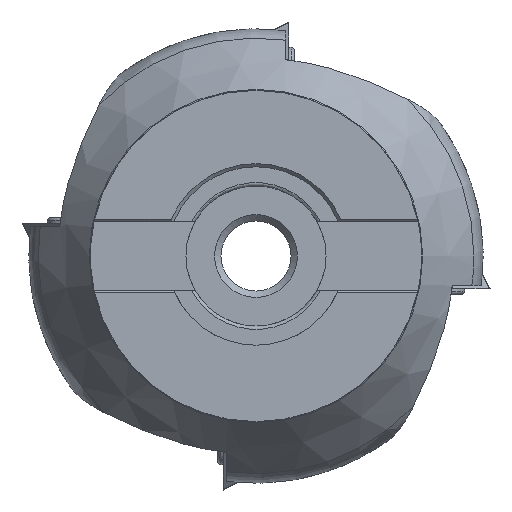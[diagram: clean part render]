
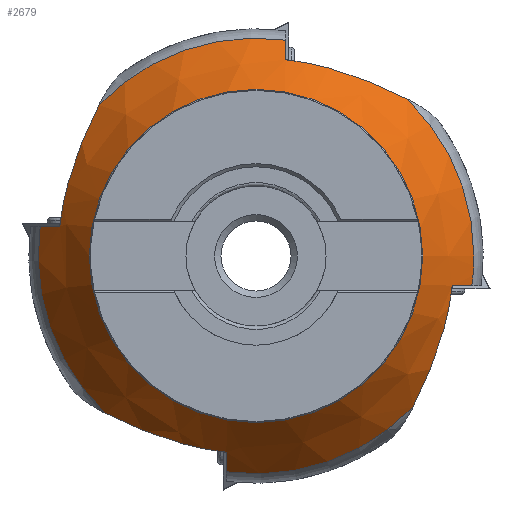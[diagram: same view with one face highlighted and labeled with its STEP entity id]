
A CAD part, left-side view. The second image highlights one B-rep face of the part: STEP entity #2679.
In plain terms, the highlighted conical face has half-angle 35 degrees and reference radius 30.909 mm.
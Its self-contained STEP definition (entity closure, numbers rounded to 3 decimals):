
#121=CONICAL_SURFACE('',#2978,30.909,0.611);
#196=(
BOUNDED_CURVE()
B_SPLINE_CURVE(2,(#4359,#4360,#4361),.UNSPECIFIED.,.F.,.F.)
B_SPLINE_CURVE_WITH_KNOTS((3,3),(0.017,0.548),
 .UNSPECIFIED.)
CURVE()
GEOMETRIC_REPRESENTATION_ITEM()
RATIONAL_B_SPLINE_CURVE((1.,1.001,1.))
REPRESENTATION_ITEM('')
);
#197=(
BOUNDED_CURVE()
B_SPLINE_CURVE(2,(#4647,#4648,#4649),.UNSPECIFIED.,.F.,.F.)
B_SPLINE_CURVE_WITH_KNOTS((3,3),(0.017,0.548),
 .UNSPECIFIED.)
CURVE()
GEOMETRIC_REPRESENTATION_ITEM()
RATIONAL_B_SPLINE_CURVE((1.,1.001,1.))
REPRESENTATION_ITEM('')
);
#198=(
BOUNDED_CURVE()
B_SPLINE_CURVE(2,(#4765,#4766,#4767),.UNSPECIFIED.,.F.,.F.)
B_SPLINE_CURVE_WITH_KNOTS((3,3),(0.017,0.548),
 .UNSPECIFIED.)
CURVE()
GEOMETRIC_REPRESENTATION_ITEM()
RATIONAL_B_SPLINE_CURVE((1.,1.001,1.))
REPRESENTATION_ITEM('')
);
#201=(
BOUNDED_CURVE()
B_SPLINE_CURVE(2,(#5134,#5135,#5136),.UNSPECIFIED.,.F.,.F.)
B_SPLINE_CURVE_WITH_KNOTS((3,3),(0.017,0.548),
 .UNSPECIFIED.)
CURVE()
GEOMETRIC_REPRESENTATION_ITEM()
RATIONAL_B_SPLINE_CURVE((1.,1.001,1.))
REPRESENTATION_ITEM('')
);
#222=CIRCLE('',#2891,34.203);
#224=CIRCLE('',#2894,34.203);
#225=CIRCLE('',#2895,34.203);
#226=CIRCLE('',#2897,34.203);
#267=CIRCLE('',#2979,34.203);
#268=CIRCLE('',#2980,26.167);
#269=CIRCLE('',#2981,26.167);
#412=FACE_OUTER_BOUND('',#566,.T.);
#566=EDGE_LOOP('',(#2141,#2142,#2143,#2144,#2145,#2146,#2147,#2148,#2149,
#2150,#2151,#2152,#2153,#2154,#2155,#2156,#2157));
#712=LINE('',#5150,#867);
#867=VECTOR('',#3487,30.909);
#984=B_SPLINE_CURVE_WITH_KNOTS('',3,(#4378,#4379,#4380,#4381,#4382,#4383),
 .UNSPECIFIED.,.F.,.F.,(4,2,4),(0.,1.123,2.077),
 .UNSPECIFIED.);
#1002=B_SPLINE_CURVE_WITH_KNOTS('',3,(#4666,#4667,#4668,#4669,#4670,#4671),
 .UNSPECIFIED.,.F.,.F.,(4,2,4),(0.,1.123,2.077),
 .UNSPECIFIED.);
#1014=B_SPLINE_CURVE_WITH_KNOTS('',3,(#4784,#4785,#4786,#4787,#4788,#4789),
 .UNSPECIFIED.,.F.,.F.,(4,2,4),(0.,1.123,2.077),
 .UNSPECIFIED.);
#1029=B_SPLINE_CURVE_WITH_KNOTS('',3,(#4908,#4909,#4910,#4911,#4912,#4913),
 .UNSPECIFIED.,.F.,.F.,(4,2,4),(0.,1.122,2.076),
 .UNSPECIFIED.);
#1100=VERTEX_POINT('',#4347);
#1101=VERTEX_POINT('',#4358);
#1104=VERTEX_POINT('',#4377);
#1124=VERTEX_POINT('',#4635);
#1125=VERTEX_POINT('',#4646);
#1128=VERTEX_POINT('',#4665);
#1141=VERTEX_POINT('',#4753);
#1142=VERTEX_POINT('',#4764);
#1145=VERTEX_POINT('',#4783);
#1159=VERTEX_POINT('',#4903);
#1160=VERTEX_POINT('',#4907);
#1165=VERTEX_POINT('',#4953);
#1166=VERTEX_POINT('',#4957);
#1188=VERTEX_POINT('',#5149);
#1189=VERTEX_POINT('',#5151);
#1378=EDGE_CURVE('',#1101,#1100,#196,.T.);
#1383=EDGE_CURVE('',#1104,#1101,#984,.T.);
#1408=EDGE_CURVE('',#1125,#1124,#197,.T.);
#1413=EDGE_CURVE('',#1128,#1125,#1002,.T.);
#1431=EDGE_CURVE('',#1142,#1141,#198,.T.);
#1436=EDGE_CURVE('',#1145,#1142,#1014,.T.);
#1453=EDGE_CURVE('',#1160,#1159,#1029,.T.);
#1460=EDGE_CURVE('',#1160,#1141,#222,.T.);
#1462=EDGE_CURVE('',#1145,#1165,#224,.T.);
#1463=EDGE_CURVE('',#1165,#1124,#225,.T.);
#1464=EDGE_CURVE('',#1104,#1166,#226,.T.);
#1523=EDGE_CURVE('',#1159,#1166,#201,.T.);
#1529=EDGE_CURVE('',#1128,#1100,#267,.T.);
#1530=EDGE_CURVE('',#1165,#1188,#712,.T.);
#1531=EDGE_CURVE('',#1188,#1189,#268,.T.);
#1532=EDGE_CURVE('',#1189,#1188,#269,.T.);
#2141=ORIENTED_EDGE('',*,*,#1378,.T.);
#2142=ORIENTED_EDGE('',*,*,#1529,.F.);
#2143=ORIENTED_EDGE('',*,*,#1413,.T.);
#2144=ORIENTED_EDGE('',*,*,#1408,.T.);
#2145=ORIENTED_EDGE('',*,*,#1463,.F.);
#2146=ORIENTED_EDGE('',*,*,#1530,.T.);
#2147=ORIENTED_EDGE('',*,*,#1531,.T.);
#2148=ORIENTED_EDGE('',*,*,#1532,.T.);
#2149=ORIENTED_EDGE('',*,*,#1530,.F.);
#2150=ORIENTED_EDGE('',*,*,#1462,.F.);
#2151=ORIENTED_EDGE('',*,*,#1436,.T.);
#2152=ORIENTED_EDGE('',*,*,#1431,.T.);
#2153=ORIENTED_EDGE('',*,*,#1460,.F.);
#2154=ORIENTED_EDGE('',*,*,#1453,.T.);
#2155=ORIENTED_EDGE('',*,*,#1523,.T.);
#2156=ORIENTED_EDGE('',*,*,#1464,.F.);
#2157=ORIENTED_EDGE('',*,*,#1383,.T.);
#2679=ADVANCED_FACE('',(#412),#121,.T.);
#2891=AXIS2_PLACEMENT_3D('',#4950,#3295,#3296);
#2894=AXIS2_PLACEMENT_3D('',#4954,#3301,#3302);
#2895=AXIS2_PLACEMENT_3D('',#4955,#3303,#3304);
#2897=AXIS2_PLACEMENT_3D('',#4958,#3307,#3308);
#2978=AXIS2_PLACEMENT_3D('',#5147,#3483,#3484);
#2979=AXIS2_PLACEMENT_3D('',#5148,#3485,#3486);
#2980=AXIS2_PLACEMENT_3D('',#5152,#3488,#3489);
#2981=AXIS2_PLACEMENT_3D('',#5153,#3490,#3491);
#3295=DIRECTION('center_axis',(1.,0.,0.));
#3296=DIRECTION('ref_axis',(0.,-1.,0.));
#3301=DIRECTION('center_axis',(1.,0.,0.));
#3302=DIRECTION('ref_axis',(0.,-1.,0.));
#3303=DIRECTION('center_axis',(1.,0.,0.));
#3304=DIRECTION('ref_axis',(0.,-1.,0.));
#3307=DIRECTION('center_axis',(1.,0.,0.));
#3308=DIRECTION('ref_axis',(0.,-1.,0.));
#3483=DIRECTION('center_axis',(1.,0.,0.));
#3484=DIRECTION('ref_axis',(0.,1.,0.));
#3485=DIRECTION('center_axis',(1.,0.,0.));
#3486=DIRECTION('ref_axis',(0.,-1.,0.));
#3487=DIRECTION('',(-0.819,0.574,0.));
#3488=DIRECTION('center_axis',(1.,0.,0.));
#3489=DIRECTION('ref_axis',(0.,0.,-1.));
#3490=DIRECTION('center_axis',(1.,0.,0.));
#3491=DIRECTION('ref_axis',(0.,0.,-1.));
#4347=CARTESIAN_POINT('',(29.477,4.65,-33.886));
#4358=CARTESIAN_POINT('',(25.129,4.65,-30.81));
#4359=CARTESIAN_POINT('Ctrl Pts',(25.129,4.65,-30.81));
#4360=CARTESIAN_POINT('Ctrl Pts',(27.2,4.65,-32.276));
#4361=CARTESIAN_POINT('Ctrl Pts',(29.477,4.65,-33.886));
#4377=CARTESIAN_POINT('',(29.477,23.697,-24.664));
#4378=CARTESIAN_POINT('Ctrl Pts',(29.477,23.697,-24.664));
#4379=CARTESIAN_POINT('Ctrl Pts',(27.995,20.616,-26.185));
#4380=CARTESIAN_POINT('Ctrl Pts',(26.972,17.374,-27.648));
#4381=CARTESIAN_POINT('Ctrl Pts',(25.666,10.899,-29.753));
#4382=CARTESIAN_POINT('Ctrl Pts',(25.308,7.817,-30.458));
#4383=CARTESIAN_POINT('Ctrl Pts',(25.129,4.65,-30.81));
#4635=CARTESIAN_POINT('',(29.477,-33.886,-4.65));
#4646=CARTESIAN_POINT('',(25.129,-30.81,-4.65));
#4647=CARTESIAN_POINT('Ctrl Pts',(25.129,-30.81,-4.65));
#4648=CARTESIAN_POINT('Ctrl Pts',(27.2,-32.276,-4.65));
#4649=CARTESIAN_POINT('Ctrl Pts',(29.477,-33.886,-4.65));
#4665=CARTESIAN_POINT('',(29.477,-24.664,-23.697));
#4666=CARTESIAN_POINT('Ctrl Pts',(29.477,-24.664,-23.697));
#4667=CARTESIAN_POINT('Ctrl Pts',(27.995,-26.185,-20.616));
#4668=CARTESIAN_POINT('Ctrl Pts',(26.972,-27.648,-17.374));
#4669=CARTESIAN_POINT('Ctrl Pts',(25.666,-29.753,-10.899));
#4670=CARTESIAN_POINT('Ctrl Pts',(25.308,-30.458,-7.817));
#4671=CARTESIAN_POINT('Ctrl Pts',(25.129,-30.81,-4.65));
#4753=CARTESIAN_POINT('',(29.477,-4.65,33.886));
#4764=CARTESIAN_POINT('',(25.129,-4.65,30.81));
#4765=CARTESIAN_POINT('Ctrl Pts',(25.129,-4.65,30.81));
#4766=CARTESIAN_POINT('Ctrl Pts',(27.2,-4.65,32.276));
#4767=CARTESIAN_POINT('Ctrl Pts',(29.477,-4.65,33.886));
#4783=CARTESIAN_POINT('',(29.477,-23.697,24.664));
#4784=CARTESIAN_POINT('Ctrl Pts',(29.477,-23.697,24.664));
#4785=CARTESIAN_POINT('Ctrl Pts',(27.995,-20.616,26.185));
#4786=CARTESIAN_POINT('Ctrl Pts',(26.972,-17.374,27.648));
#4787=CARTESIAN_POINT('Ctrl Pts',(25.666,-10.899,29.753));
#4788=CARTESIAN_POINT('Ctrl Pts',(25.308,-7.817,30.458));
#4789=CARTESIAN_POINT('Ctrl Pts',(25.129,-4.65,30.81));
#4903=CARTESIAN_POINT('',(25.129,30.81,4.65));
#4907=CARTESIAN_POINT('',(29.477,24.664,23.697));
#4908=CARTESIAN_POINT('Ctrl Pts',(29.477,24.664,23.697));
#4909=CARTESIAN_POINT('Ctrl Pts',(27.995,26.185,20.616));
#4910=CARTESIAN_POINT('Ctrl Pts',(26.972,27.648,17.373));
#4911=CARTESIAN_POINT('Ctrl Pts',(25.666,29.754,10.898));
#4912=CARTESIAN_POINT('Ctrl Pts',(25.308,30.459,7.817));
#4913=CARTESIAN_POINT('Ctrl Pts',(25.129,30.81,4.65));
#4950=CARTESIAN_POINT('Origin',(29.477,0.,0.));
#4953=CARTESIAN_POINT('',(29.477,-34.203,0.));
#4954=CARTESIAN_POINT('Origin',(29.477,0.,0.));
#4955=CARTESIAN_POINT('Origin',(29.477,0.,0.));
#4957=CARTESIAN_POINT('',(29.477,33.886,4.65));
#4958=CARTESIAN_POINT('Origin',(29.477,0.,0.));
#5134=CARTESIAN_POINT('Ctrl Pts',(25.129,30.81,4.65));
#5135=CARTESIAN_POINT('Ctrl Pts',(27.2,32.276,4.65));
#5136=CARTESIAN_POINT('Ctrl Pts',(29.477,33.886,4.65));
#5147=CARTESIAN_POINT('Origin',(24.771,0.,0.));
#5148=CARTESIAN_POINT('Origin',(29.477,0.,0.));
#5149=CARTESIAN_POINT('',(18.,-26.167,0.));
#5150=CARTESIAN_POINT('',(24.771,-30.909,0.));
#5151=CARTESIAN_POINT('',(18.,0.,26.167));
#5152=CARTESIAN_POINT('Origin',(18.,0.,0.));
#5153=CARTESIAN_POINT('Origin',(18.,0.,0.));
